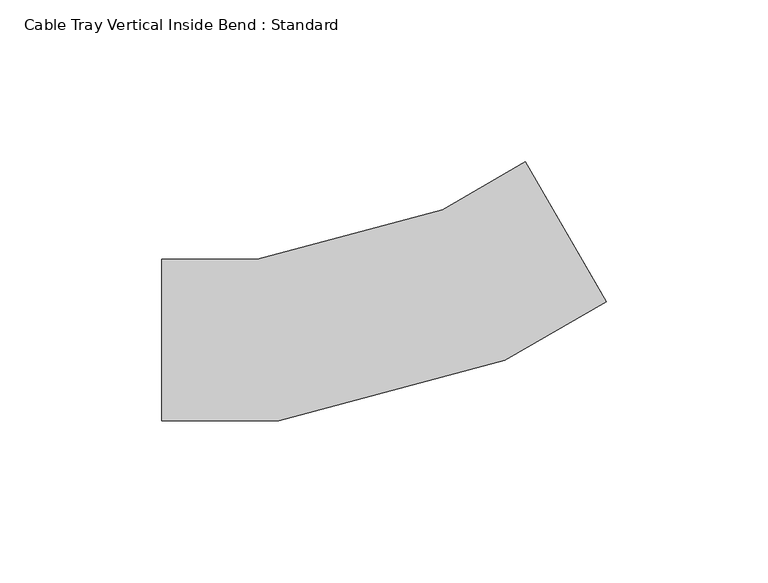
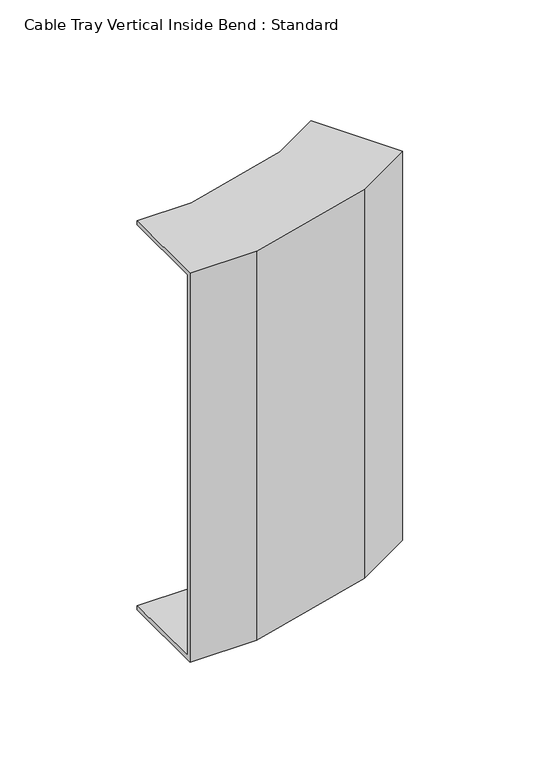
"""IFC4 building model written with IfcOpenShell, lengths in millimetres: cable carrier fitting geometry, Cable Tray Vertical Inside Bend : Standard."""

from ifc_helpers import new_model, si_unit, origin, place, context, project, spatial, faceted_brep, source, transform, mapped, element, save


def cable_tray_vertical_inside_bend_standard_9a66f55b(model_context):
    return source(origin(), model_context, "Body", "Brep", [
        faceted_brep([(-66.9872981, 25.0, 112.5), (-66.9872981, 25.0, 109.96), (-66.9872981, -22.46, 109.96), (-66.9872981, -22.46, -109.96), (-66.9872981, 25.0, -109.96), (-66.9872981, 25.0, -112.5), (-66.9872981, -25.0, -112.5), (-66.9872981, -25.0, 112.5), (45.5127019, 55.1442841, 112.5), (70.5127019, 11.843014, 112.5), (70.5127019, 11.843014, -112.5), (45.5127019, 55.1442841, -112.5), (45.5127019, 55.1442841, -109.96), (69.2427019, 14.0427185, -109.96), (69.2427019, 14.0427185, 109.96), (45.5127019, 55.1442841, 109.96), (-37.3654862, 25.0, 112.5), (-37.3654862, 25.0, 109.96), (19.8594602, 40.3333782, 109.96), (38.1783365, -3.8923013, 109.96), (-31.1172586, -22.46, 109.96), (-31.1172586, -22.46, -109.96), (38.1783365, -3.8923013, -109.96), (19.8594602, 40.3333782, -109.96), (-37.3654862, 25.0, -109.96), (-37.3654862, 25.0, -112.5), (19.8594602, 40.3333782, -112.5), (39.1587399, -6.2592045, -112.5), (-30.7828613, -25.0, -112.5), (-30.7828613, -25.0, 112.5), (39.1587399, -6.2592045, 112.5), (19.8594602, 40.3333782, 112.5)], [[[0, 1, 2, 3, 4, 5, 6, 7]], [[8, 9, 10, 11, 12, 13, 14, 15]], [[1, 0, 16, 17]], [[2, 1, 17, 18, 15, 14, 19, 20]], [[3, 2, 20, 21]], [[4, 3, 21, 22, 13, 12, 23, 24]], [[5, 4, 24, 25]], [[6, 5, 25, 26, 11, 10, 27, 28]], [[7, 6, 28, 29]], [[0, 7, 29, 30, 9, 8, 31, 16]], [[17, 16, 31, 18]], [[21, 20, 19, 22]], [[25, 24, 23, 26]], [[29, 28, 27, 30]], [[18, 31, 8, 15]], [[22, 19, 14, 13]], [[26, 23, 12, 11]], [[30, 27, 10, 9]]]),
    ])


if __name__ == "__main__":
    model = new_model("IFC4")
    model_context = context("Model", 3, world=origin())
    ifc_project = project(units=[si_unit("LENGTHUNIT", "METRE", prefix="MILLI")], contexts=[model_context])
    site = spatial("IfcSite", under=ifc_project)
    building = spatial("IfcBuilding", under=site)
    placement = place(None, origin())
    cable_tray_vertical_inside_bend_standard_shape = cable_tray_vertical_inside_bend_standard_9a66f55b(model_context)
    element("IfcCableCarrierFitting", 1, ObjectType="Cable Tray Vertical Inside Bend : Standard", at=placement, inside=building, context=model_context, shape_type="MappedRepresentation", body=[
        mapped(cable_tray_vertical_inside_bend_standard_shape, transform((0.0, 0.0, 0.0), x_axis=(1.0, 0.0, 0.0), y_axis=(0.0, 1.0, 0.0), z_axis=(0.0, 0.0, 1.0))),
    ])
    save(model, "model.ifc")
